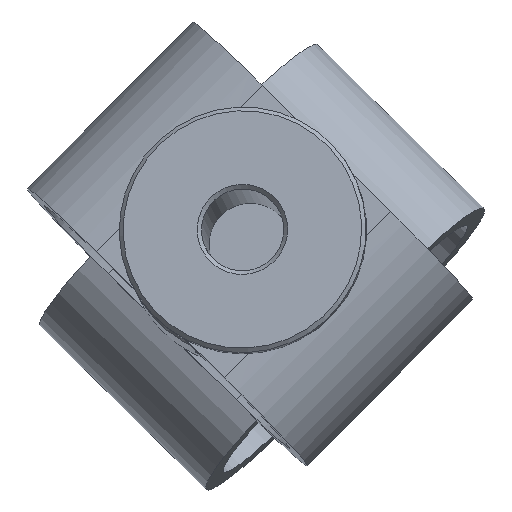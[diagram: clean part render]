
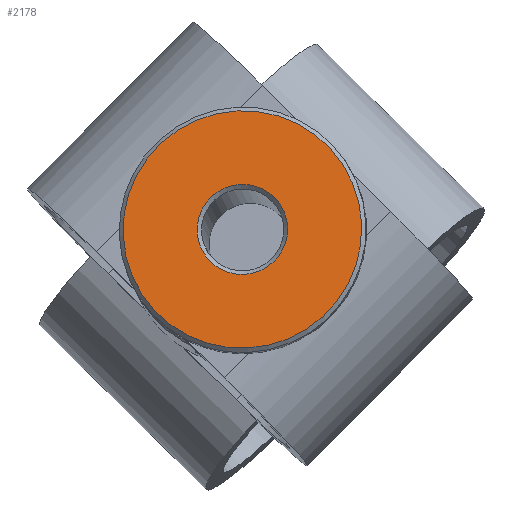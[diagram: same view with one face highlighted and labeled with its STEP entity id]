
A CAD part, top view. The second image highlights one B-rep face of the part: STEP entity #2178.
In plain terms, the highlighted planar face has unit normal (-0.06, 0.114, 0.992).
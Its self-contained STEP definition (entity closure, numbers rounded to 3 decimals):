
#409=PLANE('',#2413);
#461=FACE_BOUND('',#779,.T.);
#594=FACE_OUTER_BOUND('',#778,.T.);
#778=EDGE_LOOP('',(#1836));
#779=EDGE_LOOP('',(#1837));
#945=CIRCLE('',#2412,14.5);
#946=CIRCLE('',#2414,5.5);
#1115=VERTEX_POINT('',#3849);
#1116=VERTEX_POINT('',#3852);
#1377=EDGE_CURVE('',#1115,#1115,#945,.T.);
#1378=EDGE_CURVE('',#1116,#1116,#946,.T.);
#1836=ORIENTED_EDGE('',*,*,#1377,.F.);
#1837=ORIENTED_EDGE('',*,*,#1378,.F.);
#2178=ADVANCED_FACE('',(#594,#461),#409,.T.);
#2412=AXIS2_PLACEMENT_3D('',#3850,#2973,#2974);
#2413=AXIS2_PLACEMENT_3D('',#3851,#2975,#2976);
#2414=AXIS2_PLACEMENT_3D('',#3853,#2977,#2978);
#2973=DIRECTION('center_axis',(0.061,-0.114,-0.992));
#2974=DIRECTION('ref_axis',(-0.952,0.291,-0.091));
#2975=DIRECTION('center_axis',(-0.061,0.114,0.992));
#2976=DIRECTION('ref_axis',(-0.952,0.291,-0.091));
#2977=DIRECTION('center_axis',(-0.061,0.114,0.992));
#2978=DIRECTION('ref_axis',(0.952,-0.291,0.091));
#3849=CARTESIAN_POINT('',(-98.433,47.031,-3.551));
#3850=CARTESIAN_POINT('Origin',(-112.243,51.246,-4.877));
#3851=CARTESIAN_POINT('Origin',(-112.243,51.246,-4.877));
#3852=CARTESIAN_POINT('',(-117.482,52.845,-5.38));
#3853=CARTESIAN_POINT('Origin',(-112.243,51.246,-4.877));
